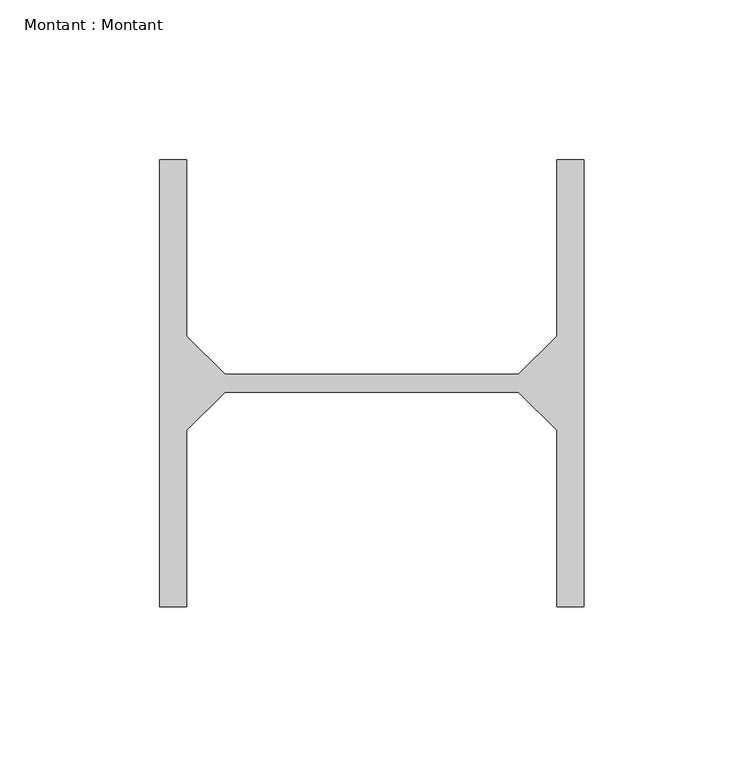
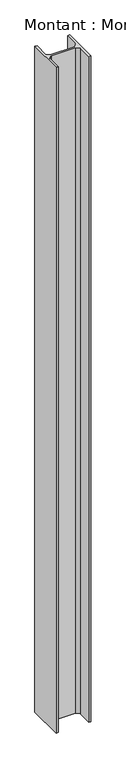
"""IFC4 building model written with IfcOpenShell, lengths in millimetres: beam geometry, Montant : Montant."""

from ifc_helpers import new_model, si_unit, frame, origin, place, context, project, spatial, polyline, outline, extrude, source, transform, mapped, element, save


def montant_montant_1f1f3942(model_context):
    return source(origin(), model_context, "Body", "SweptSolid", [
        extrude(outline(polyline([(-180.0000001, -23516.0), (-171.5000001, -23516.0), (-171.5000001, -23571.25), (-159.5000001, -23583.25), (-67.5000001, -23583.25), (-55.5000001, -23571.25), (-55.5000001, -23516.0), (-47.0000001, -23516.0), (-47.0000001, -23656.0), (-55.5000001, -23656.0), (-55.5000001, -23600.75), (-67.5000001, -23588.75), (-159.5000001, -23588.75), (-171.5000001, -23600.75), (-171.5000001, -23656.0), (-180.0000001, -23656.0), (-180.0000001, -23516.0)])), frame((0.0, 0.0, 8550.0), z_axis=(0.0, 0.0, 1.0), x_axis=(1.0, 0.0, 0.0)), (0.0, 0.0, 1.0), 2685.9485543),
    ])


if __name__ == "__main__":
    model = new_model("IFC4")
    model_context = context("Model", 3, world=origin())
    ifc_project = project(units=[si_unit("LENGTHUNIT", "METRE", prefix="MILLI")], contexts=[model_context])
    site = spatial("IfcSite", under=ifc_project)
    building = spatial("IfcBuilding", under=site)
    placement = place(None, origin())
    montant_montant_shape = montant_montant_1f1f3942(model_context)
    element("IfcBeam", 1, ObjectType="Montant : Montant", at=placement, inside=building, context=model_context, shape_type="MappedRepresentation", body=[
        mapped(montant_montant_shape, transform((0.0, 0.0, 0.0), x_axis=(1.0, 0.0, 0.0), y_axis=(0.0, 1.0, 0.0), z_axis=(0.0, 0.0, 1.0))),
    ])
    save(model, "model.ifc")
